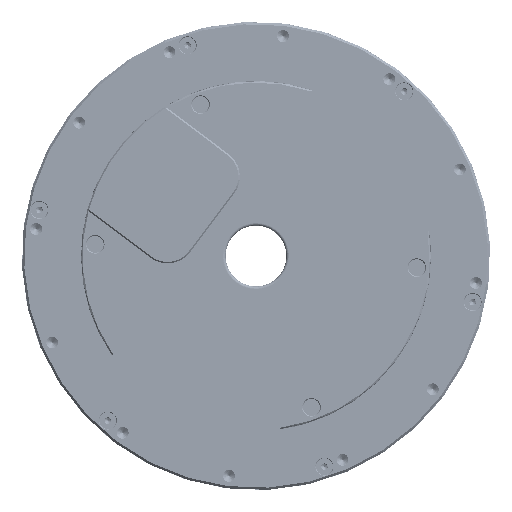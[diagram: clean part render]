
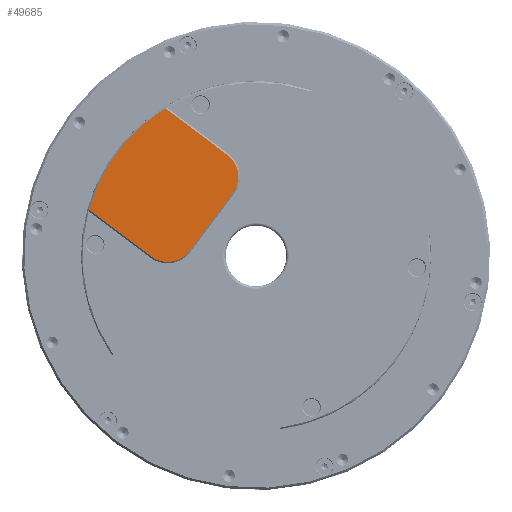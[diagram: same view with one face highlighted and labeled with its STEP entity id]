
A CAD part, front view. The second image highlights one B-rep face of the part: STEP entity #49685.
In plain terms, the highlighted planar face has unit normal (0, -1, 0) as drawn and (0, 1, 0) by its records, which use the part's own axes.
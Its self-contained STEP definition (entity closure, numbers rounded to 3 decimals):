
#233 = CARTESIAN_POINT ( 'NONE',  ( 0., 15., 0. ) ) ;
#2460 = VERTEX_POINT ( 'NONE', #107003 ) ;
#4866 = VERTEX_POINT ( 'NONE', #137408 ) ;
#5232 = DIRECTION ( 'NONE',  ( 0., 0., 1. ) ) ;
#6274 = VERTEX_POINT ( 'NONE', #98981 ) ;
#8628 = ORIENTED_EDGE ( 'NONE', *, *, #12851, .T. ) ;
#11630 = EDGE_CURVE ( 'NONE', #115954, #4866, #133884, .T. ) ;
#12851 = EDGE_CURVE ( 'NONE', #31546, #2460, #55782, .T. ) ;
#14082 = DIRECTION ( 'NONE',  ( 0., 0., 1. ) ) ;
#20749 = CARTESIAN_POINT ( 'NONE',  ( 0., 15., -22.5 ) ) ;
#24086 = VECTOR ( 'NONE', #163607, 1000. ) ;
#26105 = VERTEX_POINT ( 'NONE', #119520 ) ;
#30238 = EDGE_CURVE ( 'NONE', #4866, #26105, #116631, .T. ) ;
#30297 = DIRECTION ( 'NONE',  ( 0., 1., 0. ) ) ;
#31546 = VERTEX_POINT ( 'NONE', #107092 ) ;
#33094 = AXIS2_PLACEMENT_3D ( 'NONE', #79702, #78847, #14082 ) ;
#36139 = VECTOR ( 'NONE', #102819, 1000. ) ;
#38641 = CIRCLE ( 'NONE', #33094, 9.5 ) ;
#38660 = DIRECTION ( 'NONE',  ( -1., 0., 0. ) ) ;
#49231 = AXIS2_PLACEMENT_3D ( 'NONE', #123518, #30297, #5232 ) ;
#49685 = ADVANCED_FACE ( 'NONE', ( #143504 ), #117664, .T. ) ;
#52794 = EDGE_CURVE ( 'NONE', #26105, #31546, #38641, .T. ) ;
#55782 = LINE ( 'NONE', #161068, #24086 ) ;
#64825 = CARTESIAN_POINT ( 'NONE',  ( 20., 15., 0. ) ) ;
#68360 = EDGE_CURVE ( 'NONE', #6274, #115954, #86320, .T. ) ;
#68471 = CIRCLE ( 'NONE', #49231, 61.5 ) ;
#78702 = EDGE_LOOP ( 'NONE', ( #92341, #113728, #100310, #93131, #80701, #8628 ) ) ;
#78847 = DIRECTION ( 'NONE',  ( 0., 1., 0. ) ) ;
#79702 = CARTESIAN_POINT ( 'NONE',  ( 29.5, 15., 13. ) ) ;
#80701 = ORIENTED_EDGE ( 'NONE', *, *, #52794, .T. ) ;
#86320 = LINE ( 'NONE', #20749, #142501 ) ;
#92041 = AXIS2_PLACEMENT_3D ( 'NONE', #146406, #119690, #133461 ) ;
#92341 = ORIENTED_EDGE ( 'NONE', *, *, #120807, .T. ) ;
#93131 = ORIENTED_EDGE ( 'NONE', *, *, #30238, .T. ) ;
#98981 = CARTESIAN_POINT ( 'NONE',  ( 57.236, 15., -22.5 ) ) ;
#100310 = ORIENTED_EDGE ( 'NONE', *, *, #11630, .T. ) ;
#102190 = CARTESIAN_POINT ( 'NONE',  ( 29.5, 15., -22.5 ) ) ;
#102819 = DIRECTION ( 'NONE',  ( 0., 0., 1. ) ) ;
#107003 = CARTESIAN_POINT ( 'NONE',  ( 57.236, 15., 22.5 ) ) ;
#107092 = CARTESIAN_POINT ( 'NONE',  ( 29.5, 15., 22.5 ) ) ;
#113728 = ORIENTED_EDGE ( 'NONE', *, *, #68360, .T. ) ;
#115939 = DIRECTION ( 'NONE',  ( 0., 1., 0. ) ) ;
#115954 = VERTEX_POINT ( 'NONE', #102190 ) ;
#116631 = LINE ( 'NONE', #64825, #36139 ) ;
#117664 = PLANE ( 'NONE',  #170535 ) ;
#119520 = CARTESIAN_POINT ( 'NONE',  ( 20., 15., 13. ) ) ;
#119690 = DIRECTION ( 'NONE',  ( 0., 1., 0. ) ) ;
#120807 = EDGE_CURVE ( 'NONE', #2460, #6274, #68471, .T. ) ;
#123518 = CARTESIAN_POINT ( 'NONE',  ( 0., 15., 0. ) ) ;
#133461 = DIRECTION ( 'NONE',  ( 0., 0., 1. ) ) ;
#133884 = CIRCLE ( 'NONE', #92041, 9.5 ) ;
#137408 = CARTESIAN_POINT ( 'NONE',  ( 20., 15., -13. ) ) ;
#142501 = VECTOR ( 'NONE', #38660, 1000. ) ;
#143504 = FACE_OUTER_BOUND ( 'NONE', #78702, .T. ) ;
#146406 = CARTESIAN_POINT ( 'NONE',  ( 29.5, 15., -13. ) ) ;
#161068 = CARTESIAN_POINT ( 'NONE',  ( 0., 15., 22.5 ) ) ;
#163607 = DIRECTION ( 'NONE',  ( 1., 0., 0. ) ) ;
#170284 = DIRECTION ( 'NONE',  ( 1., 0., 0. ) ) ;
#170535 = AXIS2_PLACEMENT_3D ( 'NONE', #233, #115939, #170284 ) ;
